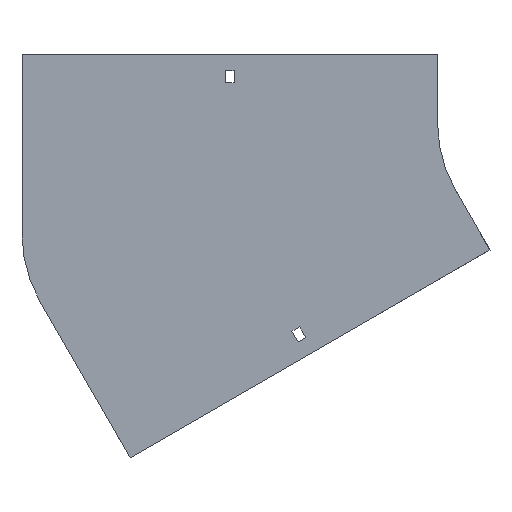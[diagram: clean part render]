
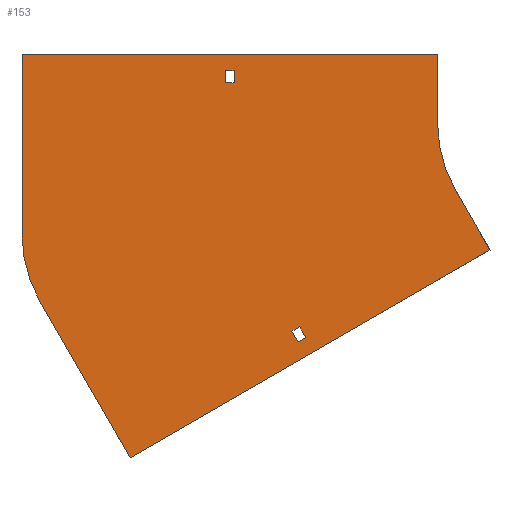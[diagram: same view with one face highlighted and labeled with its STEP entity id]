
A CAD part, front view. The second image highlights one B-rep face of the part: STEP entity #153.
In plain terms, the highlighted planar face has unit normal (0, -1, 0).
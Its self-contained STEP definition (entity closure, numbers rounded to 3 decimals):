
#3 = DIRECTION ( 'NONE',  ( 0., 0., -1. ) ) ;
#9 = DIRECTION ( 'NONE',  ( -0.5, 0., 0.866 ) ) ;
#16 = VECTOR ( 'NONE', #432, 1000. ) ;
#25 = LINE ( 'NONE', #453, #400 ) ;
#33 = VERTEX_POINT ( 'NONE', #396 ) ;
#43 = DIRECTION ( 'NONE',  ( 1., 0., 0. ) ) ;
#47 = CARTESIAN_POINT ( 'NONE',  ( -255.25, 0., 38. ) ) ;
#53 = DIRECTION ( 'NONE',  ( -0.866, 0., -0.5 ) ) ;
#66 = VERTEX_POINT ( 'NONE', #1047 ) ;
#70 = ORIENTED_EDGE ( 'NONE', *, *, #690, .F. ) ;
#78 = LINE ( 'NONE', #204, #1141 ) ;
#79 = LINE ( 'NONE', #933, #897 ) ;
#112 = ORIENTED_EDGE ( 'NONE', *, *, #133, .F. ) ;
#117 = VECTOR ( 'NONE', #1197, 1000. ) ;
#122 = DIRECTION ( 'NONE',  ( 1., 0., 0. ) ) ;
#133 = EDGE_CURVE ( 'NONE', #1185, #603, #818, .T. ) ;
#134 = CARTESIAN_POINT ( 'NONE',  ( -255.25, 0., 29. ) ) ;
#138 = AXIS2_PLACEMENT_3D ( 'NONE', #1393, #713, #212 ) ;
#153 = ADVANCED_FACE ( 'NONE', ( #393, #856, #300 ), #227, .T. ) ;
#164 = ORIENTED_EDGE ( 'NONE', *, *, #890, .F. ) ;
#167 = VECTOR ( 'NONE', #53, 1000. ) ;
#171 = VERTEX_POINT ( 'NONE', #194 ) ;
#173 = LINE ( 'NONE', #372, #167 ) ;
#184 = CARTESIAN_POINT ( 'NONE',  ( 0., 0., 0. ) ) ;
#185 = EDGE_CURVE ( 'NONE', #431, #33, #314, .T. ) ;
#188 = ORIENTED_EDGE ( 'NONE', *, *, #730, .T. ) ;
#190 = EDGE_LOOP ( 'NONE', ( #894, #263, #1360, #743, #70, #1201, #1193, #213 ) ) ;
#194 = CARTESIAN_POINT ( 'NONE',  ( -404., 0., -81.457 ) ) ;
#204 = CARTESIAN_POINT ( 'NONE',  ( -61.603, 0., -93.301 ) ) ;
#212 = DIRECTION ( 'NONE',  ( 0., 0., -1. ) ) ;
#213 = ORIENTED_EDGE ( 'NONE', *, *, #185, .F. ) ;
#227 = PLANE ( 'NONE',  #138 ) ;
#247 = LINE ( 'NONE', #134, #772 ) ;
#250 = EDGE_CURVE ( 'NONE', #66, #431, #1061, .T. ) ;
#255 = CARTESIAN_POINT ( 'NONE',  ( -196.424, 0., -157.284 ) ) ;
#263 = ORIENTED_EDGE ( 'NONE', *, *, #1107, .F. ) ;
#289 = CARTESIAN_POINT ( 'NONE',  ( -61.603, 0., -93.301 ) ) ;
#300 = FACE_BOUND ( 'NONE', #838, .T. ) ;
#314 = LINE ( 'NONE', #513, #904 ) ;
#324 = CARTESIAN_POINT ( 'NONE',  ( -248.75, 0., 29. ) ) ;
#369 = DIRECTION ( 'NONE',  ( 0., 0., -1. ) ) ;
#372 = CARTESIAN_POINT ( 'NONE',  ( -206.553, 0., -152.74 ) ) ;
#375 = CARTESIAN_POINT ( 'NONE',  ( -248.75, 0., 29. ) ) ;
#393 = FACE_BOUND ( 'NONE', #931, .T. ) ;
#396 = CARTESIAN_POINT ( 'NONE',  ( -100., 0., 0. ) ) ;
#397 = CARTESIAN_POINT ( 'NONE',  ( -304., 0., -81.457 ) ) ;
#400 = VECTOR ( 'NONE', #9, 1000. ) ;
#424 = ORIENTED_EDGE ( 'NONE', *, *, #527, .T. ) ;
#426 = DIRECTION ( 'NONE',  ( -0.866, 0., -0.5 ) ) ;
#431 = VERTEX_POINT ( 'NONE', #886 ) ;
#432 = DIRECTION ( 'NONE',  ( 0.5, 0., -0.866 ) ) ;
#453 = CARTESIAN_POINT ( 'NONE',  ( -200.924, 0., -149.49 ) ) ;
#471 = DIRECTION ( 'NONE',  ( 0.866, 0., 0.5 ) ) ;
#482 = CARTESIAN_POINT ( 'NONE',  ( -202.053, 0., -160.534 ) ) ;
#496 = CARTESIAN_POINT ( 'NONE',  ( -255.25, 0., 38. ) ) ;
#511 = CARTESIAN_POINT ( 'NONE',  ( -200.924, 0., -149.49 ) ) ;
#513 = CARTESIAN_POINT ( 'NONE',  ( -100., 0., 50. ) ) ;
#527 = EDGE_CURVE ( 'NONE', #695, #625, #1357, .T. ) ;
#529 = VERTEX_POINT ( 'NONE', #815 ) ;
#535 = VERTEX_POINT ( 'NONE', #1148 ) ;
#541 = EDGE_CURVE ( 'NONE', #33, #529, #659, .T. ) ;
#567 = DIRECTION ( 'NONE',  ( -1., 0., 0. ) ) ;
#581 = VECTOR ( 'NONE', #43, 1000. ) ;
#603 = VERTEX_POINT ( 'NONE', #482 ) ;
#625 = VERTEX_POINT ( 'NONE', #324 ) ;
#643 = VERTEX_POINT ( 'NONE', #511 ) ;
#659 = CIRCLE ( 'NONE', #817, 100. ) ;
#685 = CARTESIAN_POINT ( 'NONE',  ( -255.25, 0., 29. ) ) ;
#690 = EDGE_CURVE ( 'NONE', #998, #965, #78, .T. ) ;
#695 = VERTEX_POINT ( 'NONE', #1085 ) ;
#701 = CARTESIAN_POINT ( 'NONE',  ( -206.553, 0., -152.74 ) ) ;
#708 = EDGE_CURVE ( 'NONE', #529, #998, #1225, .T. ) ;
#713 = DIRECTION ( 'NONE',  ( 0., -1., 0. ) ) ;
#730 = EDGE_CURVE ( 'NONE', #857, #1039, #247, .T. ) ;
#731 = DIRECTION ( 'NONE',  ( 0., 0., 1. ) ) ;
#743 = ORIENTED_EDGE ( 'NONE', *, *, #1257, .F. ) ;
#756 = CARTESIAN_POINT ( 'NONE',  ( -324.874, 0., -245.301 ) ) ;
#772 = VECTOR ( 'NONE', #975, 1000. ) ;
#793 = VECTOR ( 'NONE', #567, 1000. ) ;
#807 = EDGE_CURVE ( 'NONE', #864, #643, #25, .T. ) ;
#815 = CARTESIAN_POINT ( 'NONE',  ( -86.603, 0., -50. ) ) ;
#817 = AXIS2_PLACEMENT_3D ( 'NONE', #184, #1353, #1267 ) ;
#818 = LINE ( 'NONE', #701, #1242 ) ;
#825 = EDGE_CURVE ( 'NONE', #1039, #695, #1372, .T. ) ;
#830 = DIRECTION ( 'NONE',  ( 0., 0., 1. ) ) ;
#834 = CARTESIAN_POINT ( 'NONE',  ( -324.874, 0., -245.301 ) ) ;
#838 = EDGE_LOOP ( 'NONE', ( #164, #112, #944, #1177 ) ) ;
#855 = CARTESIAN_POINT ( 'NONE',  ( -206.553, 0., -152.74 ) ) ;
#856 = FACE_OUTER_BOUND ( 'NONE', #190, .T. ) ;
#857 = VERTEX_POINT ( 'NONE', #685 ) ;
#864 = VERTEX_POINT ( 'NONE', #255 ) ;
#884 = VECTOR ( 'NONE', #122, 1000. ) ;
#885 = EDGE_CURVE ( 'NONE', #643, #1185, #173, .T. ) ;
#886 = CARTESIAN_POINT ( 'NONE',  ( -100., 0., 50. ) ) ;
#890 = EDGE_CURVE ( 'NONE', #603, #864, #1354, .T. ) ;
#894 = ORIENTED_EDGE ( 'NONE', *, *, #250, .F. ) ;
#897 = VECTOR ( 'NONE', #830, 1000. ) ;
#904 = VECTOR ( 'NONE', #3, 1000. ) ;
#931 = EDGE_LOOP ( 'NONE', ( #188, #960, #424, #1069 ) ) ;
#933 = CARTESIAN_POINT ( 'NONE',  ( -404., 0., -81.457 ) ) ;
#936 = EDGE_CURVE ( 'NONE', #625, #857, #1119, .T. ) ;
#944 = ORIENTED_EDGE ( 'NONE', *, *, #885, .F. ) ;
#946 = VECTOR ( 'NONE', #471, 1000. ) ;
#950 = EDGE_CURVE ( 'NONE', #535, #171, #1070, .T. ) ;
#960 = ORIENTED_EDGE ( 'NONE', *, *, #825, .T. ) ;
#965 = VERTEX_POINT ( 'NONE', #834 ) ;
#975 = DIRECTION ( 'NONE',  ( 0., 0., 1. ) ) ;
#998 = VERTEX_POINT ( 'NONE', #289 ) ;
#1039 = VERTEX_POINT ( 'NONE', #496 ) ;
#1047 = CARTESIAN_POINT ( 'NONE',  ( -404., 0., 50. ) ) ;
#1061 = LINE ( 'NONE', #1189, #884 ) ;
#1069 = ORIENTED_EDGE ( 'NONE', *, *, #936, .T. ) ;
#1070 = CIRCLE ( 'NONE', #1371, 100. ) ;
#1085 = CARTESIAN_POINT ( 'NONE',  ( -248.75, 0., 38. ) ) ;
#1107 = EDGE_CURVE ( 'NONE', #171, #66, #79, .T. ) ;
#1119 = LINE ( 'NONE', #1245, #793 ) ;
#1124 = CARTESIAN_POINT ( 'NONE',  ( -202.053, 0., -160.534 ) ) ;
#1141 = VECTOR ( 'NONE', #426, 1000. ) ;
#1148 = CARTESIAN_POINT ( 'NONE',  ( -390.603, 0., -131.457 ) ) ;
#1177 = ORIENTED_EDGE ( 'NONE', *, *, #807, .F. ) ;
#1184 = DIRECTION ( 'NONE',  ( 0., 1., 0. ) ) ;
#1185 = VERTEX_POINT ( 'NONE', #855 ) ;
#1189 = CARTESIAN_POINT ( 'NONE',  ( -404., 0., 50. ) ) ;
#1193 = ORIENTED_EDGE ( 'NONE', *, *, #541, .F. ) ;
#1197 = DIRECTION ( 'NONE',  ( -0.5, 0., 0.866 ) ) ;
#1201 = ORIENTED_EDGE ( 'NONE', *, *, #708, .F. ) ;
#1225 = LINE ( 'NONE', #1339, #16 ) ;
#1242 = VECTOR ( 'NONE', #1299, 1000. ) ;
#1245 = CARTESIAN_POINT ( 'NONE',  ( -255.25, 0., 29. ) ) ;
#1257 = EDGE_CURVE ( 'NONE', #965, #535, #1304, .T. ) ;
#1267 = DIRECTION ( 'NONE',  ( 0., 0., -1. ) ) ;
#1284 = VECTOR ( 'NONE', #369, 1000. ) ;
#1299 = DIRECTION ( 'NONE',  ( 0.5, 0., -0.866 ) ) ;
#1304 = LINE ( 'NONE', #756, #117 ) ;
#1339 = CARTESIAN_POINT ( 'NONE',  ( -86.603, 0., -50. ) ) ;
#1353 = DIRECTION ( 'NONE',  ( 0., -1., 0. ) ) ;
#1354 = LINE ( 'NONE', #1124, #946 ) ;
#1357 = LINE ( 'NONE', #375, #1284 ) ;
#1360 = ORIENTED_EDGE ( 'NONE', *, *, #950, .F. ) ;
#1371 = AXIS2_PLACEMENT_3D ( 'NONE', #397, #1184, #731 ) ;
#1372 = LINE ( 'NONE', #47, #581 ) ;
#1393 = CARTESIAN_POINT ( 'NONE',  ( 0., 0., 0. ) ) ;
